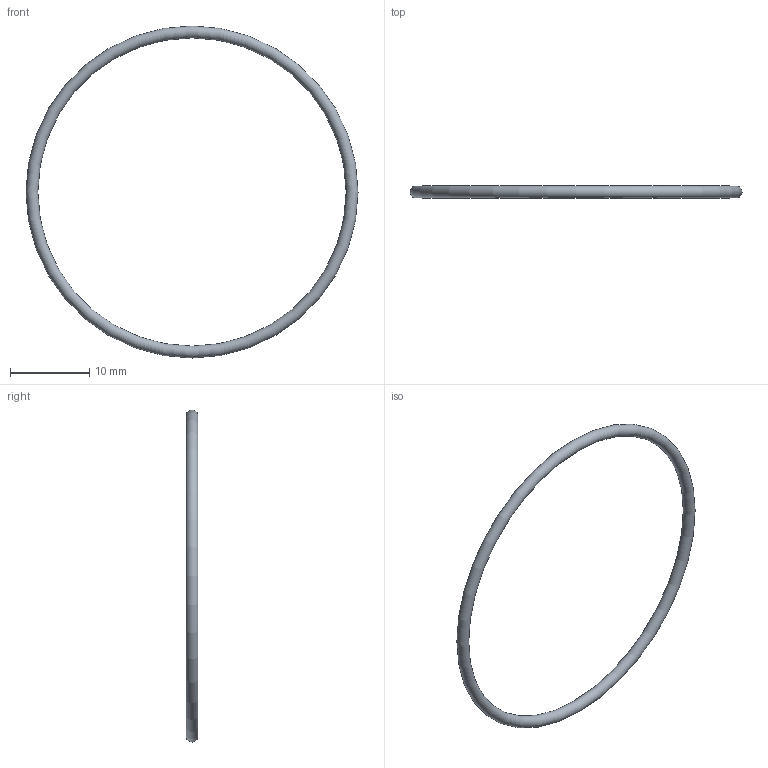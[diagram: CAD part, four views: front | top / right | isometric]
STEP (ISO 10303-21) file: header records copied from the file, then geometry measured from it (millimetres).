
FILE_DESCRIPTION( ( 'STEP AP203' ), '1' );
FILE_NAME( 'C:/Temp/Ganter_Step_05_03_2020/data/3_5/or638/O-Ring OR638-39.00-1.50-70.stp', '2020-03-12T13:44:19', ( 'License CC BY-ND 4.0' ), ( 'CADENAS' ), ' ', 'PARTsolutions', ' ' );
FILE_SCHEMA( ( 'CONFIG_CONTROL_DESIGN' ) );
Length unit declared in the file: millimetre
Products named in the file (1): _O-Ring OR638-39.00-1.50-70
Bounding box: 42 x 1.5 x 42 mm (x, y, z)
Volume: 224.8 mm3; surface area: 599.6 mm2
Topology: 1 solids, 1 shells, 1 faces, 2 edges, 1 vertices
Faces by surface type: torus 1
Entity records: 62 total; most frequent: CC_DESIGN_PERSON_AND_ORGANIZATION_ASSIGNMENT 5, PERSON_AND_ORGANIZATION_ROLE 4, DIRECTION 4, CARTESIAN_POINT 3, DATE_TIME_ROLE 2, CC_DESIGN_DATE_AND_TIME_ASSIGNMENT 2, AXIS2_PLACEMENT_3D 2, DIMENSIONAL_EXPONENTS 2
